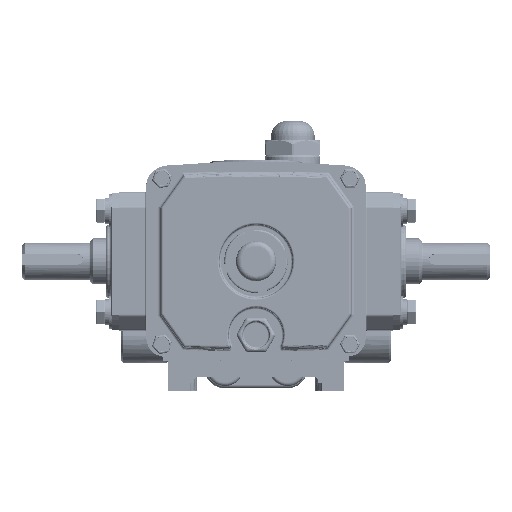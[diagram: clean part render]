
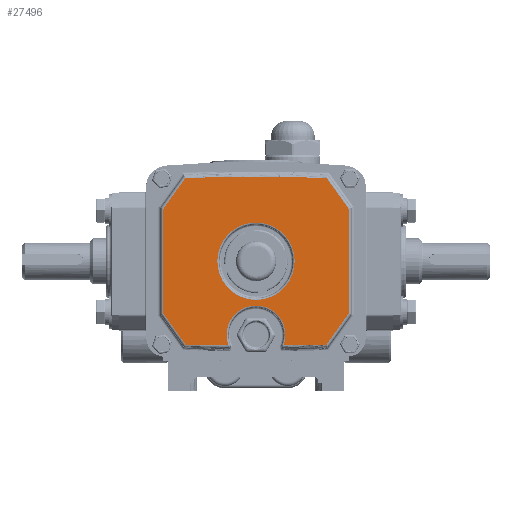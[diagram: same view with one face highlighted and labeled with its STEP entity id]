
A CAD part, top view. The second image highlights one B-rep face of the part: STEP entity #27496.
In plain terms, the highlighted planar face has unit normal (0, 0, 1).
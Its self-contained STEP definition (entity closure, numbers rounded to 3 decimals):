
#27496 = ADVANCED_FACE ( 'NONE', ( #61832, #61318 ), #61194, .F. ) ;
#27502 = EDGE_CURVE ( 'NONE', #124625, #125207, #61678, .T. ) ;
#27507 = VERTEX_POINT ( 'NONE', #61068 ) ;
#27518 = EDGE_LOOP ( 'NONE', ( #27537, #27527, #28296, #28445, #27548, #28455, #28452, #28303, #28507, #28360, #28502, #28045 ) ) ;
#27527 = ORIENTED_EDGE ( 'NONE', *, *, #125256, .T. ) ;
#27537 = ORIENTED_EDGE ( 'NONE', *, *, #28569, .T. ) ;
#27540 = EDGE_CURVE ( 'NONE', #27661, #28827, #60603, .T. ) ;
#27548 = ORIENTED_EDGE ( 'NONE', *, *, #27750, .T. ) ;
#27561 = EDGE_CURVE ( 'NONE', #125285, #27937, #60501, .T. ) ;
#27661 = VERTEX_POINT ( 'NONE', #60372 ) ;
#27750 = EDGE_CURVE ( 'NONE', #27937, #27661, #63288, .T. ) ;
#27819 = EDGE_LOOP ( 'NONE', ( #28312, #27834 ) ) ;
#27834 = ORIENTED_EDGE ( 'NONE', *, *, #27502, .T. ) ;
#27937 = VERTEX_POINT ( 'NONE', #64799 ) ;
#28045 = ORIENTED_EDGE ( 'NONE', *, *, #28394, .T. ) ;
#28296 = ORIENTED_EDGE ( 'NONE', *, *, #125235, .T. ) ;
#28303 = ORIENTED_EDGE ( 'NONE', *, *, #28482, .T. ) ;
#28312 = ORIENTED_EDGE ( 'NONE', *, *, #125279, .T. ) ;
#28360 = ORIENTED_EDGE ( 'NONE', *, *, #28509, .T. ) ;
#28389 = VERTEX_POINT ( 'NONE', #71896 ) ;
#28394 = EDGE_CURVE ( 'NONE', #28389, #28598, #71844, .T. ) ;
#28409 = EDGE_CURVE ( 'NONE', #28413, #28389, #72982, .T. ) ;
#28413 = VERTEX_POINT ( 'NONE', #71848 ) ;
#28445 = ORIENTED_EDGE ( 'NONE', *, *, #27561, .T. ) ;
#28452 = ORIENTED_EDGE ( 'NONE', *, *, #28846, .T. ) ;
#28455 = ORIENTED_EDGE ( 'NONE', *, *, #27540, .T. ) ;
#28472 = EDGE_CURVE ( 'NONE', #28610, #27507, #72971, .T. ) ;
#28482 = EDGE_CURVE ( 'NONE', #28821, #28610, #72414, .T. ) ;
#28502 = ORIENTED_EDGE ( 'NONE', *, *, #28409, .T. ) ;
#28507 = ORIENTED_EDGE ( 'NONE', *, *, #28472, .T. ) ;
#28509 = EDGE_CURVE ( 'NONE', #27507, #28413, #72711, .T. ) ;
#28569 = EDGE_CURVE ( 'NONE', #28598, #125242, #72138, .T. ) ;
#28598 = VERTEX_POINT ( 'NONE', #71823 ) ;
#28610 = VERTEX_POINT ( 'NONE', #72207 ) ;
#28821 = VERTEX_POINT ( 'NONE', #74126 ) ;
#28827 = VERTEX_POINT ( 'NONE', #74462 ) ;
#28846 = EDGE_CURVE ( 'NONE', #28827, #28821, #74808, .T. ) ;
#60372 = CARTESIAN_POINT ( 'NONE',  ( 38.216, -45.27, 203.25 ) ) ;
#60484 = DIRECTION ( 'NONE',  ( -1., 0., 0. ) ) ;
#60488 = DIRECTION ( 'NONE',  ( 0., 0., -1. ) ) ;
#60490 = CARTESIAN_POINT ( 'NONE',  ( 0., -40., 203.25 ) ) ;
#60496 = AXIS2_PLACEMENT_3D ( 'NONE', #60490, #60488, #60484 ) ;
#60501 = CIRCLE ( 'NONE', #60496, 16. ) ;
#60592 = DIRECTION ( 'NONE',  ( 0.583, 0.812, 0. ) ) ;
#60594 = VECTOR ( 'NONE', #60592, 1000. ) ;
#60599 = CARTESIAN_POINT ( 'NONE',  ( -619.7, -961.192, 203.25 ) ) ;
#60603 = LINE ( 'NONE', #60599, #60594 ) ;
#61068 = CARTESIAN_POINT ( 'NONE',  ( -38.216, 45.27, 203.25 ) ) ;
#61077 = DIRECTION ( 'NONE',  ( -1., 0., 0. ) ) ;
#61081 = DIRECTION ( 'NONE',  ( 0., 0., -1. ) ) ;
#61194 = PLANE ( 'NONE',  #61900 ) ;
#61318 = FACE_OUTER_BOUND ( 'NONE', #27518, .T. ) ;
#61675 = AXIS2_PLACEMENT_3D ( 'NONE', #61740, #61081, #61077 ) ;
#61678 = CIRCLE ( 'NONE', #61675, 21. ) ;
#61698 = DIRECTION ( 'NONE',  ( -1., 0., 0. ) ) ;
#61703 = DIRECTION ( 'NONE',  ( 0., 0., -1. ) ) ;
#61707 = CARTESIAN_POINT ( 'NONE',  ( 0., -1406.329, 203.25 ) ) ;
#61740 = CARTESIAN_POINT ( 'NONE',  ( 0., 0., 203.25 ) ) ;
#61832 = FACE_BOUND ( 'NONE', #27819, .T. ) ;
#61900 = AXIS2_PLACEMENT_3D ( 'NONE', #61707, #61703, #61698 ) ;
#62860 = DIRECTION ( 'NONE',  ( -1., 0., 0. ) ) ;
#62863 = DIRECTION ( 'NONE',  ( 0., 0., 1. ) ) ;
#62868 = CARTESIAN_POINT ( 'NONE',  ( 0., 1406.329, 203.25 ) ) ;
#62872 = AXIS2_PLACEMENT_3D ( 'NONE', #62868, #62863, #62860 ) ;
#63288 = CIRCLE ( 'NONE', #62872, 1452.102 ) ;
#64799 = CARTESIAN_POINT ( 'NONE',  ( 14.952, -45.696, 203.25 ) ) ;
#71788 = DIRECTION ( 'NONE',  ( -1., 0., 0. ) ) ;
#71794 = DIRECTION ( 'NONE',  ( 0., 0., 1. ) ) ;
#71800 = CARTESIAN_POINT ( 'NONE',  ( 0., 1406.329, 203.25 ) ) ;
#71823 = CARTESIAN_POINT ( 'NONE',  ( -38.216, -45.27, 203.25 ) ) ;
#71844 = LINE ( 'NONE', #71868, #72992 ) ;
#71848 = CARTESIAN_POINT ( 'NONE',  ( -50.25, 28.517, 203.25 ) ) ;
#71868 = CARTESIAN_POINT ( 'NONE',  ( 619.7, -961.192, 203.25 ) ) ;
#71896 = CARTESIAN_POINT ( 'NONE',  ( -50.25, -28.517, 203.25 ) ) ;
#71986 = DIRECTION ( 'NONE',  ( -0.583, -0.812, 0. ) ) ;
#71989 = VECTOR ( 'NONE', #71986, 1000. ) ;
#71993 = CARTESIAN_POINT ( 'NONE',  ( -713.019, -894.161, 203.25 ) ) ;
#72106 = AXIS2_PLACEMENT_3D ( 'NONE', #71800, #71794, #71788 ) ;
#72138 = CIRCLE ( 'NONE', #72106, 1452.102 ) ;
#72207 = CARTESIAN_POINT ( 'NONE',  ( 38.216, 45.27, 203.25 ) ) ;
#72397 = DIRECTION ( 'NONE',  ( -0.583, 0.812, 0. ) ) ;
#72400 = VECTOR ( 'NONE', #72397, 1000. ) ;
#72409 = CARTESIAN_POINT ( 'NONE',  ( 713.019, -894.161, 203.25 ) ) ;
#72414 = LINE ( 'NONE', #72409, #72400 ) ;
#72446 = DIRECTION ( 'NONE',  ( -1., 0., 0. ) ) ;
#72450 = DIRECTION ( 'NONE',  ( 0., 0., 1. ) ) ;
#72454 = CARTESIAN_POINT ( 'NONE',  ( 0., -1406.329, 203.25 ) ) ;
#72711 = LINE ( 'NONE', #71993, #71989 ) ;
#72872 = AXIS2_PLACEMENT_3D ( 'NONE', #72454, #72450, #72446 ) ;
#72971 = CIRCLE ( 'NONE', #72872, 1452.102 ) ;
#72976 = DIRECTION ( 'NONE',  ( 0., -1., 0. ) ) ;
#72978 = VECTOR ( 'NONE', #72976, 1000. ) ;
#72980 = CARTESIAN_POINT ( 'NONE',  ( -50.25, -1406.329, 203.25 ) ) ;
#72982 = LINE ( 'NONE', #72980, #72978 ) ;
#72989 = DIRECTION ( 'NONE',  ( 0.583, -0.812, 0. ) ) ;
#72992 = VECTOR ( 'NONE', #72989, 1000. ) ;
#74126 = CARTESIAN_POINT ( 'NONE',  ( 50.25, 28.517, 203.25 ) ) ;
#74408 = DIRECTION ( 'NONE',  ( 0., 1., 0. ) ) ;
#74410 = VECTOR ( 'NONE', #74408, 1000. ) ;
#74413 = CARTESIAN_POINT ( 'NONE',  ( 50.25, -1406.329, 203.25 ) ) ;
#74462 = CARTESIAN_POINT ( 'NONE',  ( 50.25, -28.517, 203.25 ) ) ;
#74808 = LINE ( 'NONE', #74413, #74410 ) ;
#124625 = VERTEX_POINT ( 'NONE', #139576 ) ;
#125207 = VERTEX_POINT ( 'NONE', #143657 ) ;
#125233 = VERTEX_POINT ( 'NONE', #143342 ) ;
#125235 = EDGE_CURVE ( 'NONE', #125233, #125285, #143213, .T. ) ;
#125242 = VERTEX_POINT ( 'NONE', #143446 ) ;
#125256 = EDGE_CURVE ( 'NONE', #125242, #125233, #144083, .T. ) ;
#125279 = EDGE_CURVE ( 'NONE', #125207, #124625, #171487, .T. ) ;
#125285 = VERTEX_POINT ( 'NONE', #171766 ) ;
#139576 = CARTESIAN_POINT ( 'NONE',  ( 21., 0., 203.25 ) ) ;
#142708 = DIRECTION ( 'NONE',  ( -1., 0., 0. ) ) ;
#142945 = DIRECTION ( 'NONE',  ( 0., 0., -1. ) ) ;
#143210 = DIRECTION ( 'NONE',  ( -1., 0., 0. ) ) ;
#143211 = DIRECTION ( 'NONE',  ( 0., 0., -1. ) ) ;
#143212 = CARTESIAN_POINT ( 'NONE',  ( 0., -40., 203.25 ) ) ;
#143213 = CIRCLE ( 'NONE', #143293, 16. ) ;
#143293 = AXIS2_PLACEMENT_3D ( 'NONE', #143212, #143211, #143210 ) ;
#143342 = CARTESIAN_POINT ( 'NONE',  ( -16., -40., 203.25 ) ) ;
#143446 = CARTESIAN_POINT ( 'NONE',  ( -14.952, -45.696, 203.25 ) ) ;
#143657 = CARTESIAN_POINT ( 'NONE',  ( -21., 0., 203.25 ) ) ;
#144079 = CARTESIAN_POINT ( 'NONE',  ( 0., -40., 203.25 ) ) ;
#144081 = AXIS2_PLACEMENT_3D ( 'NONE', #144079, #142945, #142708 ) ;
#144083 = CIRCLE ( 'NONE', #144081, 16. ) ;
#171477 = DIRECTION ( 'NONE',  ( -1., 0., 0. ) ) ;
#171480 = DIRECTION ( 'NONE',  ( 0., 0., -1. ) ) ;
#171482 = CARTESIAN_POINT ( 'NONE',  ( 0., 0., 203.25 ) ) ;
#171484 = AXIS2_PLACEMENT_3D ( 'NONE', #171482, #171480, #171477 ) ;
#171487 = CIRCLE ( 'NONE', #171484, 21. ) ;
#171766 = CARTESIAN_POINT ( 'NONE',  ( 16., -40., 203.25 ) ) ;
